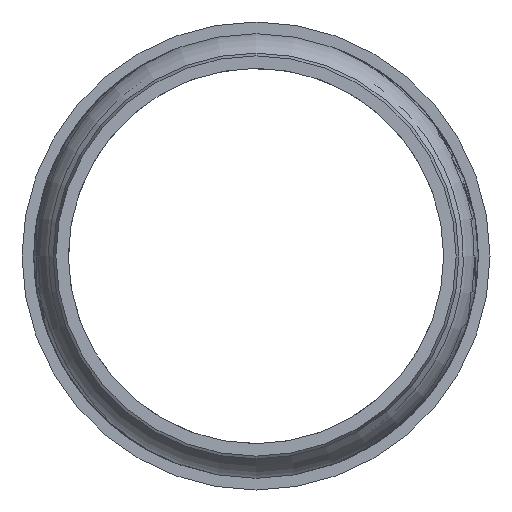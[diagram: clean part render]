
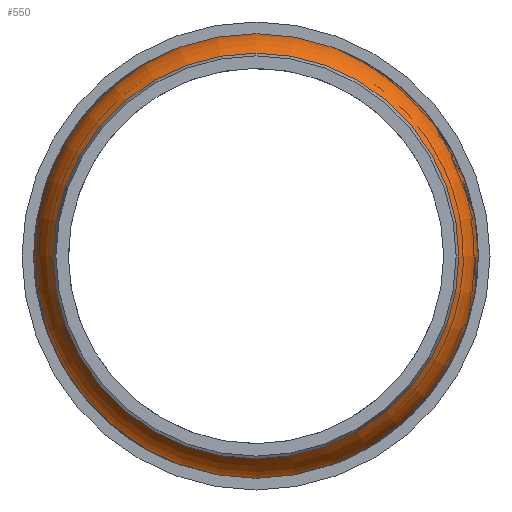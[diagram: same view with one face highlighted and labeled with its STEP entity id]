
A CAD part, left-side view. The second image highlights one B-rep face of the part: STEP entity #550.
In plain terms, the highlighted toroidal (fillet/blend) face has major radius 58.219 mm and minor radius 30 mm.
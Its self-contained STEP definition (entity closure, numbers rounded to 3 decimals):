
#62=TOROIDAL_SURFACE('',#612,58.219,30.);
#111=FACE_BOUND('',#208,.T.);
#147=FACE_OUTER_BOUND('',#207,.T.);
#207=EDGE_LOOP('',(#460,#461));
#208=EDGE_LOOP('',(#462));
#234=CIRCLE('',#591,87.8);
#235=CIRCLE('',#592,87.8);
#241=CIRCLE('',#611,80.125);
#274=VERTEX_POINT('',#1617);
#283=VERTEX_POINT('',#2019);
#294=VERTEX_POINT('',#2284);
#340=EDGE_CURVE('',#283,#274,#234,.T.);
#341=EDGE_CURVE('',#274,#283,#235,.T.);
#353=EDGE_CURVE('',#294,#294,#241,.T.);
#460=ORIENTED_EDGE('',*,*,#340,.F.);
#461=ORIENTED_EDGE('',*,*,#341,.F.);
#462=ORIENTED_EDGE('',*,*,#353,.T.);
#550=ADVANCED_FACE('',(#147,#111),#62,.T.);
#591=AXIS2_PLACEMENT_3D('',#2020,#684,#685);
#592=AXIS2_PLACEMENT_3D('',#2021,#686,#687);
#611=AXIS2_PLACEMENT_3D('',#2285,#724,#725);
#612=AXIS2_PLACEMENT_3D('',#2286,#726,#727);
#684=DIRECTION('center_axis',(1.,0.,0.));
#685=DIRECTION('ref_axis',(0.,0.,1.));
#686=DIRECTION('center_axis',(1.,0.,0.));
#687=DIRECTION('ref_axis',(0.,0.,1.));
#724=DIRECTION('center_axis',(1.,0.,0.));
#725=DIRECTION('ref_axis',(0.,0.,1.));
#726=DIRECTION('center_axis',(1.,0.,0.));
#727=DIRECTION('ref_axis',(0.,0.,1.));
#1617=CARTESIAN_POINT('',(1512.6,87.8,0.));
#2019=CARTESIAN_POINT('',(1512.6,-87.8,0.));
#2020=CARTESIAN_POINT('Origin',(1512.6,0.,
0.));
#2021=CARTESIAN_POINT('Origin',(1512.6,0.,
0.));
#2284=CARTESIAN_POINT('',(1497.1,-80.125,0.));
#2285=CARTESIAN_POINT('Origin',(1497.1,0.,
0.));
#2286=CARTESIAN_POINT('Origin',(1517.597,0.,
0.));
